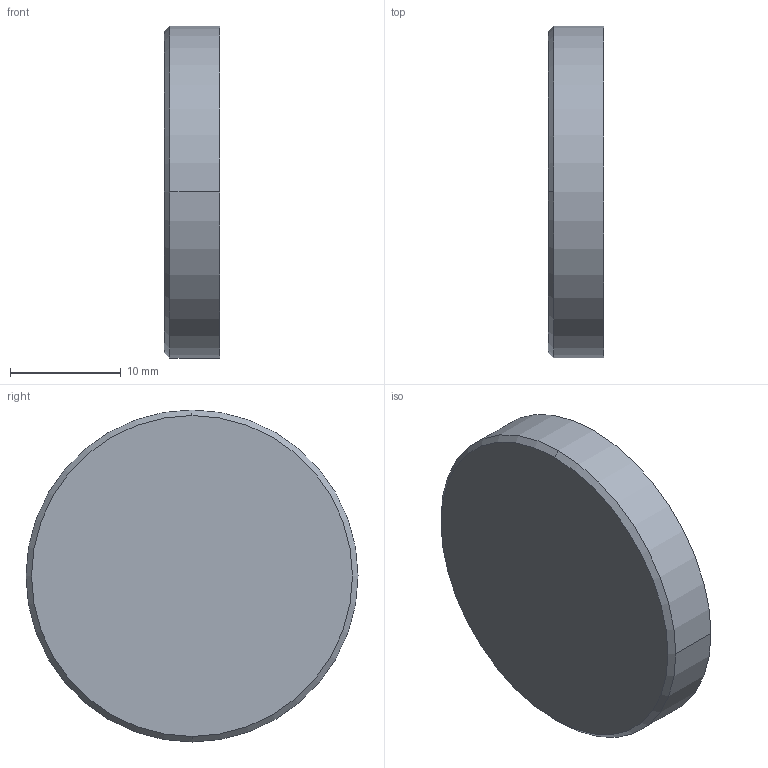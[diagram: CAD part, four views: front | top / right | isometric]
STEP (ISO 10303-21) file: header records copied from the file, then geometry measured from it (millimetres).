
FILE_DESCRIPTION (( 'STEP AP214' ), '1' );
FILE_NAME ('Bouchon.STEP', '2005-04-07T17:30:21', ( 'frantz' ), ( '' ), 'SwSTEP 2.0', 'SolidWorks 2004104', '' );
FILE_SCHEMA (( 'AUTOMOTIVE_DESIGN' ));
Length unit declared in the file: centimetre
Products named in the file (1): Bouchon
Bounding box: 5 x 30 x 30 mm (x, y, z)
Volume: 1059.6 mm3; surface area: 2208.9 mm2
Topology: 1 solids, 1 shells, 9 faces, 18 edges, 12 vertices
Faces by surface type: cylinder 4, plane 3, cone 2
Entity records: 267 total; most frequent: DIRECTION 50, CARTESIAN_POINT 40, ORIENTED_EDGE 36, AXIS2_PLACEMENT_3D 22, EDGE_CURVE 18, VERTEX_POINT 12, CIRCLE 12, EDGE_LOOP 10
